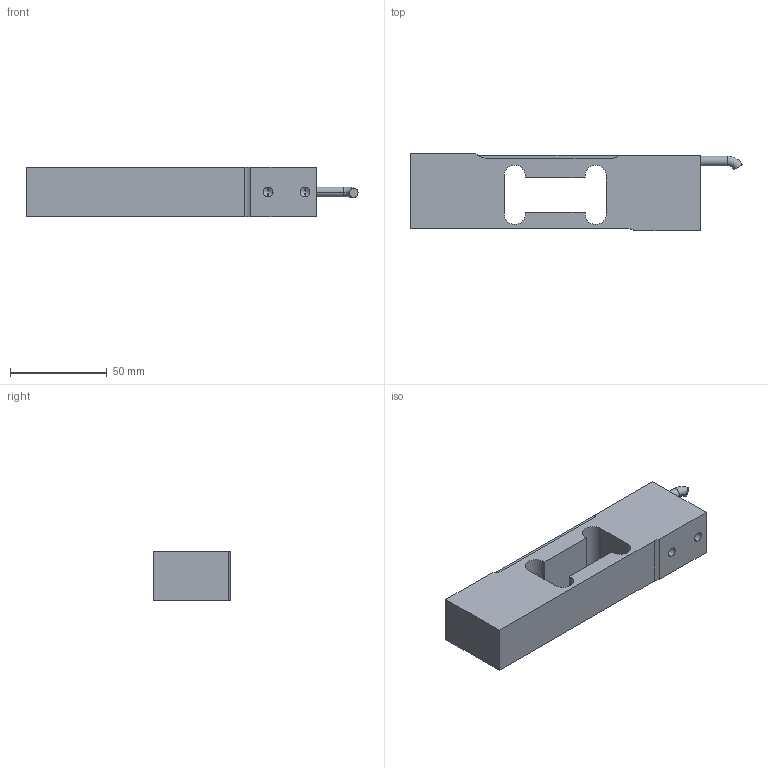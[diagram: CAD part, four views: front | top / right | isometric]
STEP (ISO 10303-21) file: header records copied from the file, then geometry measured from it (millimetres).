
FILE_DESCRIPTION (( 'STEP AP214' ), '1' );
FILE_NAME ('1042.STEP', '2017-07-24T07:10:23', ( '' ), ( '' ), 'SwSTEP 2.0', 'SolidWorks 2017', '' );
FILE_SCHEMA (( 'AUTOMOTIVE_DESIGN' ));
Length unit declared in the file: millimetre
Products named in the file (1): 1042
Bounding box: 171.36 x 40 x 25.4 mm (x, y, z)
Volume: 115588.9 mm3; surface area: 29631.1 mm2
Topology: 3 solids, 3 shells, 67 faces, 170 edges, 106 vertices
Faces by surface type: plane 31, cylinder 26, cone 8, torus 2
Entity records: 2759 total; most frequent: DIRECTION 356, CARTESIAN_POINT 336, ORIENTED_EDGE 324, EDGE_CURVE 162, AXIS2_PLACEMENT_3D 126, VERTEX_POINT 106, LINE 104, VECTOR 104
